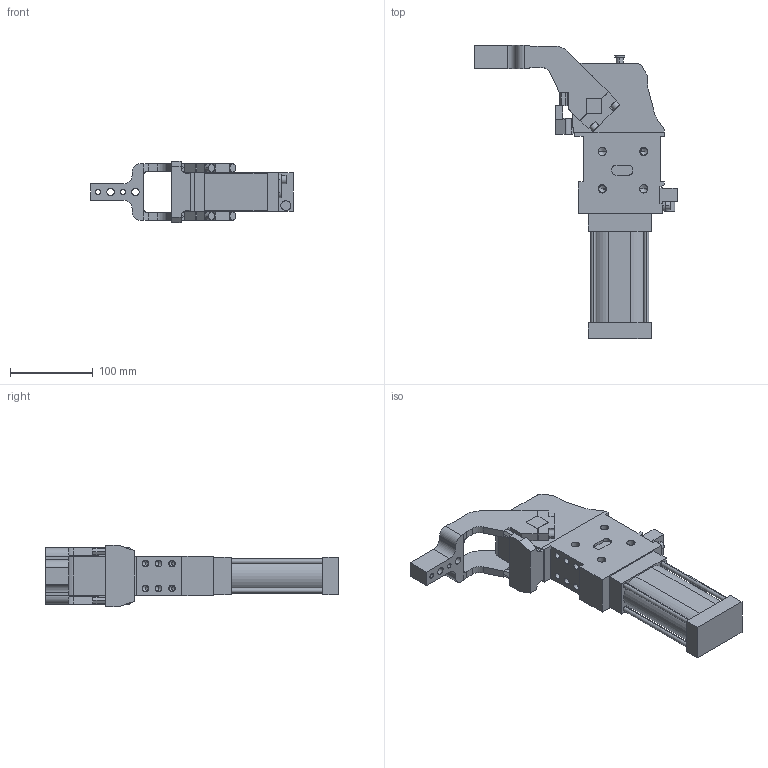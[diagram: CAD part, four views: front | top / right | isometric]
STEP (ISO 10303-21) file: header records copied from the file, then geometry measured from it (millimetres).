
FILE_DESCRIPTION (( 'STEP AP214' ), '1' );
FILE_NAME ('cpl50tv3ci1g_135.STEP', '2023-01-26T10:00:47', ( '' ), ( '' ), 'SwSTEP 2.0', 'SolidWorks 2022', '' );
FILE_SCHEMA (( 'AUTOMOTIVE_DESIGN' ));
Length unit declared in the file: millimetre
Products named in the file (4): meccanica_cpl_50_tassello_esterno; blocchetto_VEP_0; leva_v3c_cpl50t; cpl50tv3ci1g_135
Assembly tree (3 placements, depth 2):
  cpl50tv3ci1g_135
    meccanica_cpl_50_tassello_esterno
    blocchetto_VEP_0
    leva_v3c_cpl50t
Bounding box: 244.5 x 353.5 x 74 mm (x, y, z)
Volume: 1422212.6 mm3; surface area: 172770.6 mm2
Topology: 3 solids, 3 shells, 434 faces, 1128 edges, 705 vertices
Faces by surface type: plane 226, cylinder 158, cone 50
Entity records: 14526 total; most frequent: CARTESIAN_POINT 2303, DIRECTION 2288, ORIENTED_EDGE 2164, EDGE_CURVE 1082, AXIS2_PLACEMENT_3D 772, LINE 744, VECTOR 744, VERTEX_POINT 705
